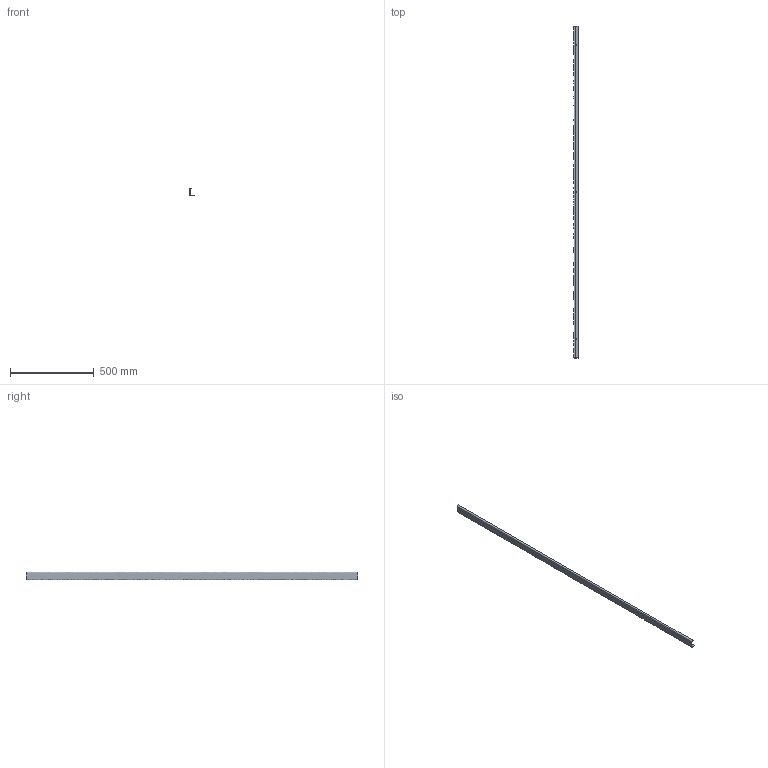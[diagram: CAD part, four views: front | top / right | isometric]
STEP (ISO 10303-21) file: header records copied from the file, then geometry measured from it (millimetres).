
FILE_DESCRIPTION(/* description */ (''),/* implementation_level */ '2;1');
FILE_NAME(/* name */ 'KPZMP0~1',/* time_stamp */ '2024-01-28T21:15:49+01:00',/* author */ (''),/* organization */ (''),/* preprocessor_version */ 'ST-DEVELOPER v16.5',/* originating_system */ '',/* authorisation */ '');
FILE_SCHEMA (('CONFIG_CONTROL_DESIGN'));
Length unit declared in the file: millimetre
Products named in the file (1): Document
Bounding box: 26.5 x 1985 x 45 mm (x, y, z)
Volume: 163440.7 mm3; surface area: 314695.7 mm2
Topology: 1 solids, 1 shells, 18 faces, 48 edges, 32 vertices
Faces by surface type: plane 14, bspline 4
Entity records: 707 total; most frequent: CARTESIAN_POINT 304, ORIENTED_EDGE 96, EDGE_CURVE 48, VERTEX_POINT 32, B_SPLINE_CURVE_WITH_KNOTS 27, EDGE_LOOP 24, ADVANCED_FACE 18, FACE_OUTER_BOUND 18
